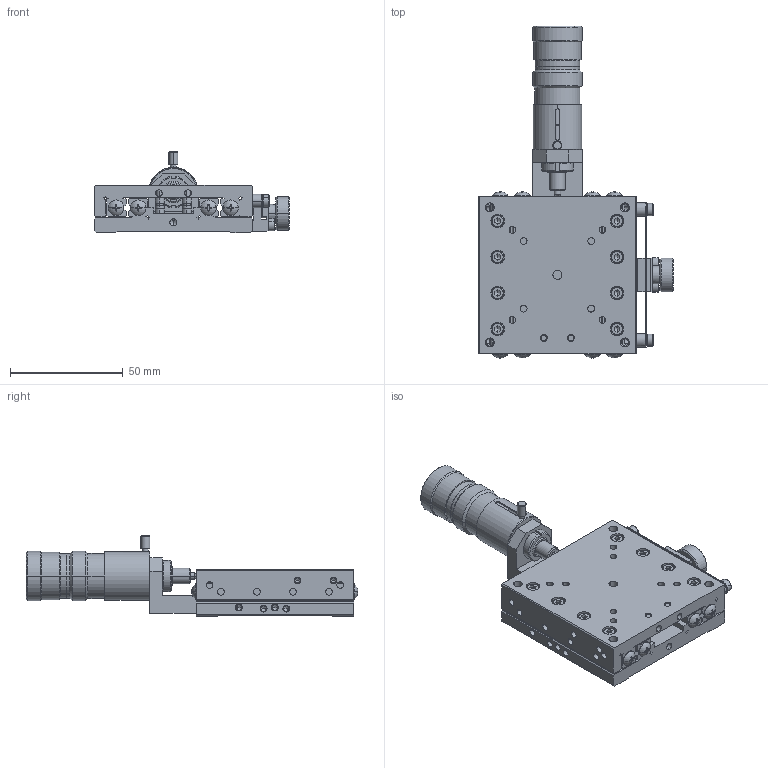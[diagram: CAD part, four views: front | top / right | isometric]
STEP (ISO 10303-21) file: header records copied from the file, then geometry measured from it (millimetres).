
FILE_DESCRIPTION (( 'STEP AP214' ), '1' );
FILE_NAME ('XM07F-C3-R-CL.STEP', '2009-05-11T05:50:44', ( ' ' ), ( ' ' ), 'SwSTEP 2.0', 'SolidWorks 2008', '' );
FILE_SCHEMA (( 'AUTOMOTIVE_DESIGN' ));
Length unit declared in the file: millimetre
Products named in the file (5): 001550-1011(3D)-Part-1-5; 001550-1011(3D)-5; XM07F-C3-R-CL; 001550-1023(3D)-5; 001550-1011(3D)-Part-2-5
Assembly tree (4 placements, depth 3):
  XM07F-C3-R-CL
    001550-1011(3D)-5
      001550-1011(3D)-Part-1-5
      001550-1011(3D)-Part-2-5
    001550-1023(3D)-5
Bounding box: 86.5 x 147.37 x 36 mm (x, y, z)
Volume: 109425.8 mm3; surface area: 53067.9 mm2
Topology: 3 solids, 40 shells, 1782 faces, 4288 edges, 2577 vertices
Faces by surface type: plane 800, cylinder 561, cone 387, sphere 18, torus 16
Entity records: 52040 total; most frequent: CARTESIAN_POINT 10107, DIRECTION 9219, ORIENTED_EDGE 8396, EDGE_CURVE 4198, AXIS2_PLACEMENT_3D 3530, VERTEX_POINT 2577, LINE 2159, VECTOR 2159
